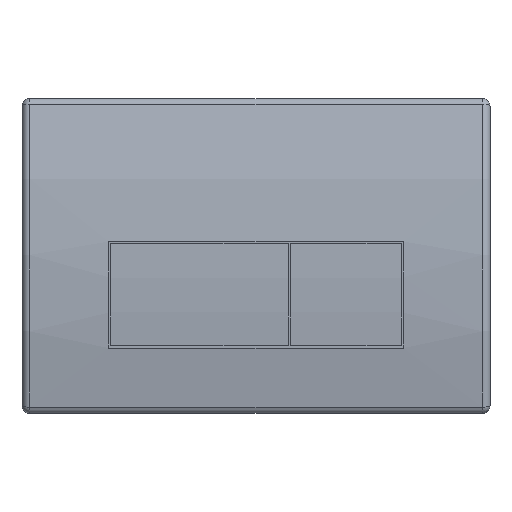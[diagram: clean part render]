
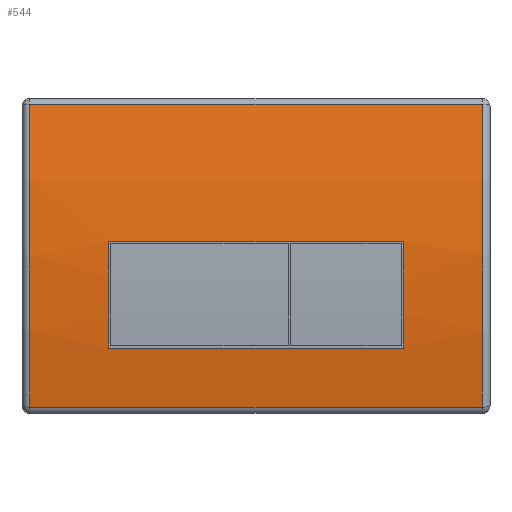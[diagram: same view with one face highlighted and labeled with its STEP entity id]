
A CAD part, front view. The second image highlights one B-rep face of the part: STEP entity #544.
In plain terms, the highlighted cylindrical face has radius 300 mm (diameter 600 mm), a partial arc.
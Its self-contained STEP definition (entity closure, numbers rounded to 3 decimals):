
#22=FACE_BOUND('',#99,.T.);
#23=CYLINDRICAL_SURFACE('',#603,300.);
#32=CIRCLE('',#598,300.);
#33=CIRCLE('',#601,300.);
#34=CIRCLE('',#604,300.);
#35=CIRCLE('',#605,300.);
#63=FACE_OUTER_BOUND('',#98,.T.);
#98=EDGE_LOOP('',(#357,#358,#359,#360));
#99=EDGE_LOOP('',(#361,#362,#363,#364));
#136=LINE('',#846,#182);
#138=LINE('',#852,#184);
#139=LINE('',#858,#185);
#140=LINE('',#861,#186);
#182=VECTOR('',#674,133.);
#184=VECTOR('',#682,133.);
#185=VECTOR('',#687,204.);
#186=VECTOR('',#690,204.);
#225=VERTEX_POINT('',#838);
#226=VERTEX_POINT('',#839);
#227=VERTEX_POINT('',#844);
#228=VERTEX_POINT('',#848);
#229=VERTEX_POINT('',#854);
#230=VERTEX_POINT('',#855);
#231=VERTEX_POINT('',#857);
#232=VERTEX_POINT('',#859);
#269=EDGE_CURVE('',#225,#226,#32,.T.);
#273=EDGE_CURVE('',#227,#225,#136,.T.);
#274=EDGE_CURVE('',#228,#227,#33,.T.);
#276=EDGE_CURVE('',#226,#228,#138,.T.);
#277=EDGE_CURVE('',#229,#230,#34,.T.);
#278=EDGE_CURVE('',#231,#229,#139,.T.);
#279=EDGE_CURVE('',#231,#232,#35,.T.);
#280=EDGE_CURVE('',#232,#230,#140,.T.);
#357=ORIENTED_EDGE('',*,*,#277,.F.);
#358=ORIENTED_EDGE('',*,*,#278,.F.);
#359=ORIENTED_EDGE('',*,*,#279,.T.);
#360=ORIENTED_EDGE('',*,*,#280,.T.);
#361=ORIENTED_EDGE('',*,*,#274,.T.);
#362=ORIENTED_EDGE('',*,*,#273,.T.);
#363=ORIENTED_EDGE('',*,*,#269,.T.);
#364=ORIENTED_EDGE('',*,*,#276,.T.);
#544=ADVANCED_FACE('',(#63,#22),#23,.T.);
#598=AXIS2_PLACEMENT_3D('',#840,#667,#668);
#601=AXIS2_PLACEMENT_3D('',#849,#677,#678);
#603=AXIS2_PLACEMENT_3D('',#853,#683,#684);
#604=AXIS2_PLACEMENT_3D('',#856,#685,#686);
#605=AXIS2_PLACEMENT_3D('',#860,#688,#689);
#667=DIRECTION('center_axis',(-1.,0.,0.));
#668=DIRECTION('ref_axis',(0.,-0.995,-0.097));
#674=DIRECTION('',(-1.,0.,0.));
#677=DIRECTION('center_axis',(1.,0.,0.));
#678=DIRECTION('ref_axis',(0.,-0.998,0.063));
#682=DIRECTION('',(1.,0.,0.));
#683=DIRECTION('center_axis',(-1.,0.,0.));
#684=DIRECTION('ref_axis',(0.,-0.983,-0.185));
#685=DIRECTION('center_axis',(-1.,0.,0.));
#686=DIRECTION('ref_axis',(0.,-0.983,-0.185));
#687=DIRECTION('',(-1.,0.,0.));
#688=DIRECTION('center_axis',(-1.,0.,0.));
#689=DIRECTION('ref_axis',(0.,-0.983,-0.185));
#690=DIRECTION('',(-1.,0.,0.));
#838=CARTESIAN_POINT('',(-66.5,-13.965,-41.5));
#839=CARTESIAN_POINT('',(-66.5,-14.768,6.5));
#840=CARTESIAN_POINT('Origin',(-66.5,284.63,-12.5));
#844=CARTESIAN_POINT('',(66.5,-13.965,-41.5));
#846=CARTESIAN_POINT('',(66.5,-13.965,-41.5));
#848=CARTESIAN_POINT('',(66.5,-14.768,6.5));
#849=CARTESIAN_POINT('Origin',(66.5,284.63,-12.5));
#852=CARTESIAN_POINT('',(-66.5,-14.768,6.5));
#853=CARTESIAN_POINT('Origin',(0.,284.63,-12.5));
#854=CARTESIAN_POINT('',(-102.,-10.163,-68.149));
#855=CARTESIAN_POINT('',(-102.,-4.244,68.444));
#856=CARTESIAN_POINT('Origin',(-102.,284.63,-12.5));
#857=CARTESIAN_POINT('',(102.,-10.163,-68.149));
#858=CARTESIAN_POINT('',(102.,-10.163,-68.149));
#859=CARTESIAN_POINT('',(102.,-4.244,68.444));
#860=CARTESIAN_POINT('Origin',(102.,284.63,-12.5));
#861=CARTESIAN_POINT('',(102.,-4.244,68.444));
